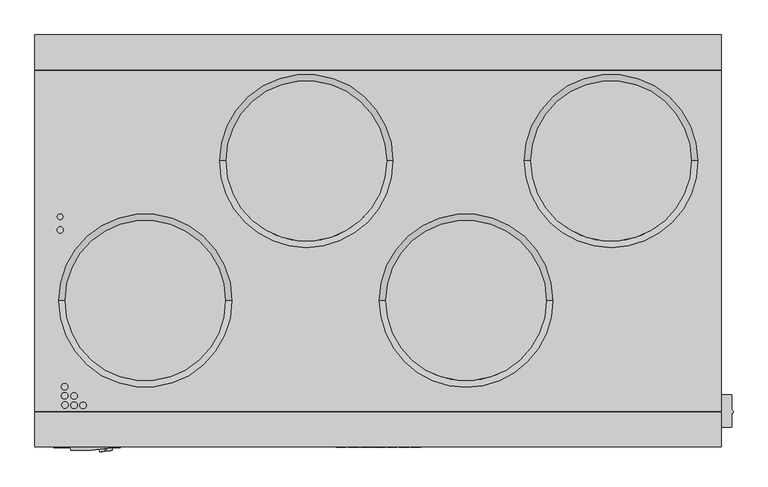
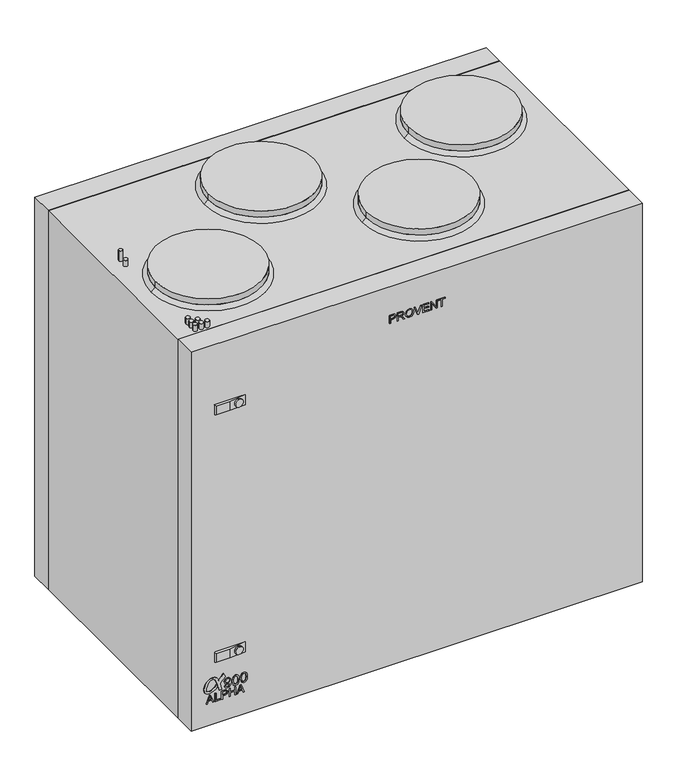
"""IFC4 building model written with IfcOpenShell, lengths in millimetres: proxy geometry, PROVENT_Вертикальная приточно-вытяжная установка_ALPHA 900 V_L : Provent ALPHA 900 V (L)."""

from ifc_helpers import new_model, si_unit, point, frame, frame_2d, origin, origin_with_axes, place, context, project, spatial, polyline, circle_curve, trimmed, segment, composite_curve, outline, extrude, faceted_brep, source, transform, mapped, element, save
from ifc_brep_helpers import plane_surface, revolved_surface, advanced_brep


def mechanical_equipment_39a2e7f8(model_context):
    return source(origin(), model_context, "Body", "SolidModel", [
        extrude(outline(composite_curve([segment(trimmed(circle_curve(frame_2d((105.733129, -470.1237592)), 0.5380284), [point((105.5307619, -469.6252393))], [point((105.5307619, -470.6222792))], True, "CARTESIAN"), True, "CONTINUOUS"), segment(polyline([(105.5307619, -470.6222792), (108.4438718, -471.7405173), (110.8786758, -472.9811119), (111.8121807, -473.634759)]), True, "CONTINUOUS"), segment(trimmed(circle_curve(frame_2d((104.0893382, -483.605165)), 12.6115539), [point((111.8121807, -473.634759))], [point((116.6261852, -484.975843))], False, "CARTESIAN"), True, "CONTINUOUS"), segment(trimmed(circle_curve(frame_2d((94.7661112, -482.5858384)), 21.9903379), [point((116.6261852, -484.975843))], [point((104.4885666, -502.3101589))], False, "CARTESIAN"), True, "CONTINUOUS"), segment(trimmed(circle_curve(frame_2d((93.5739124, -483.7782792)), 21.5072137), [point((104.4885666, -502.3101589))], [point((86.750764, -504.1744771))], False, "CARTESIAN"), True, "CONTINUOUS"), segment(trimmed(circle_curve(frame_2d((92.3890877, -493.0509518)), 12.4709065), [point((86.750764, -504.1744771))], [point((79.9366704, -492.3721207))], False, "CARTESIAN"), True, "CONTINUOUS"), segment(trimmed(circle_curve(frame_2d((110.0461474, -496.0763753)), 30.3364814), [point((79.9366704, -492.3721207))], [point((90.1381753, -473.1858805))], False, "CARTESIAN"), True, "CONTINUOUS"), segment(polyline([(90.1381753, -473.1858805), (97.4533974, -475.5627403)]), True, "CONTINUOUS"), segment(trimmed(circle_curve(frame_2d((112.8376087, -501.0248829)), 29.7488598), [point((97.4533974, -475.5627403))], [point((85.9068624, -488.3864665))], True, "CARTESIAN"), True, "CONTINUOUS"), segment(trimmed(circle_curve(frame_2d((94.2043298, -492.2804117)), 9.1657392), [point((85.9068624, -488.3864665))], [point((86.5295452, -497.2912455))], True, "CARTESIAN"), True, "CONTINUOUS"), segment(trimmed(circle_curve(frame_2d((91.0798658, -494.3203608)), 5.4342961), [point((86.5295452, -497.2912455))], [point((91.5402338, -499.7351216))], True, "CARTESIAN"), True, "CONTINUOUS"), segment(trimmed(circle_curve(frame_2d((91.5850962, -480.9838739)), 18.7513014), [point((91.5402338, -499.7351216))], [point((99.8454243, -497.8177173))], True, "CARTESIAN"), True, "CONTINUOUS"), segment(trimmed(circle_curve(frame_2d((91.1893595, -472.7550938)), 26.5153267), [point((99.8454243, -497.8177173))], [point((111.1844004, -490.1694813))], True, "CARTESIAN"), True, "CONTINUOUS"), segment(trimmed(circle_curve(frame_2d((105.8571487, -485.5297895)), 7.0644427), [point((111.1844004, -490.1694813))], [point((110.4868357, -480.1938408))], True, "CARTESIAN"), True, "CONTINUOUS"), segment(trimmed(circle_curve(frame_2d((74.7273898, -542.8145505)), 72.1116583), [point((110.4868357, -480.1938408))], [point((96.0155477, -473.9167596))], True, "CARTESIAN"), True, "CONTINUOUS"), segment(polyline([(96.0155477, -473.9167596), (80.1999436, -468.7779583), (80.1999436, -462.7436648), (94.9084674, -466.5447623)]), True, "CONTINUOUS"), segment(trimmed(circle_curve(frame_2d((95.7729921, -463.1994436)), 3.4552222), [point((94.9084674, -466.5447623))], [point((98.5138308, -465.3033362))], True, "CARTESIAN"), True, "CONTINUOUS"), segment(polyline([(98.5138308, -465.3033362), (109.4841363, -455.0733608)]), True, "CONTINUOUS"), segment(trimmed(circle_curve(frame_2d((110.1625275, -455.8008462)), 0.9947108), [point((109.4841363, -455.0733608))], [point((110.8409186, -455.0733608))], False, "CARTESIAN"), True, "CONTINUOUS"), segment(polyline([(110.8409186, -455.0733608), (118.9566741, -459.0316792)]), True, "CONTINUOUS"), segment(trimmed(circle_curve(frame_2d((118.472789, -459.3752736)), 0.593466), [point((118.9566741, -459.0316792))], [point((118.8242858, -459.8534492))], False, "CARTESIAN"), True, "CONTINUOUS"), segment(polyline([(118.8242858, -459.8534492), (105.5307619, -469.6252393)]), True, "CONTINUOUS")], self_intersect=False)), frame((0.0, -322.0, 0.0), z_axis=(0.0, 1.0, 0.0), x_axis=(0.0, 0.0, 1.0)), (0.0, 0.0, 1.0), 1.0),
        extrude(outline(polyline([(55.4809879, -499.9227218), (55.4809879, -497.2690664), (61.7595073, -494.9734827), (61.7595073, -486.6985904), (55.4809879, -484.3981016), (55.4809879, -481.7444462), (75.57225, -489.7642737), (75.57225, -491.9028943), (55.4809879, -499.9227218)]), holes=[polyline([(64.2709151, -494.0513252), (69.6419922, -492.0843828), (73.0608422, -490.833584), (69.210344, -489.4258222), (64.2709151, -487.6158428), (64.2709151, -494.0513252)])]), frame((0.0, -322.0, 0.0), z_axis=(0.0, 1.0, 0.0), x_axis=(0.0, 0.0, 1.0)), (0.0, 0.0, 1.0), 5.0),
        extrude(outline(polyline([(55.4809879, -479.0613601), (55.4809879, -466.5043214), (57.9923957, -466.5043214), (57.9923957, -476.5499524), (75.57225, -476.5499524), (75.57225, -479.0613601), (55.4809879, -479.0613601)])), frame((0.0, -322.0, 0.0), z_axis=(0.0, 1.0, 0.0), x_axis=(0.0, 0.0, 1.0)), (0.0, 0.0, 1.0), 5.0),
        extrude(outline(polyline([(55.4809879, -463.6789876), (55.4809879, -461.1675799), (63.6430631, -461.1675799), (63.6430631, -456.0613778), (65.4187069, -450.2267694), (69.7597144, -448.6105411), (72.499209, -449.2089625), (74.441626, -450.7908551), (75.3809513, -453.231139), (75.57225, -456.2330561), (75.57225, -463.6789876), (55.4809879, -463.6789876)]), holes=[polyline([(66.1544709, -461.1675799), (73.0608422, -461.1675799), (73.0608422, -455.9730861), (72.8891639, -453.4616784), (71.7511823, -451.7669686), (69.6714228, -451.1219489), (67.0766284, -452.2157847), (66.1544709, -455.914225), (66.1544709, -461.1675799)])]), frame((0.0, -322.0, 0.0), z_axis=(0.0, 1.0, 0.0), x_axis=(0.0, 0.0, 1.0)), (0.0, 0.0, 1.0), 5.0),
        extrude(outline(polyline([(55.4809879, -445.1573555), (55.4809879, -442.6459477), (64.898767, -442.6459477), (64.898767, -431.9724648), (55.4809879, -431.9724648), (55.4809879, -429.461057), (75.57225, -429.461057), (75.57225, -431.9724648), (67.4101748, -431.9724648), (67.4101748, -442.6459477), (75.57225, -442.6459477), (75.57225, -445.1573555), (55.4809879, -445.1573555)])), frame((0.0, -322.0, 0.0), z_axis=(0.0, 1.0, 0.0), x_axis=(0.0, 0.0, 1.0)), (0.0, 0.0, 1.0), 5.0),
        extrude(outline(polyline([(55.4809879, -427.4058229), (55.4809879, -424.7521675), (61.7595073, -422.4565838), (61.7595073, -414.1816915), (55.4809879, -411.8812027), (55.4809879, -409.2275473), (75.57225, -417.2473748), (75.57225, -419.3859954), (55.4809879, -427.4058229)]), holes=[polyline([(64.2709151, -421.5344263), (69.6419922, -419.5674839), (73.0608422, -418.3166851), (69.210344, -416.9089233), (64.2709151, -415.0989439), (64.2709151, -421.5344263)])]), frame((0.0, -322.0, 0.0), z_axis=(0.0, 1.0, 0.0), x_axis=(0.0, 0.0, 1.0)), (0.0, 0.0, 1.0), 5.0),
        extrude(outline(polyline([(85.8888798, -456.667671), (80.9684581, -454.4174595), (79.2179529, -449.592074), (80.7017436, -444.7452287), (85.0212914, -441.6274288), (92.6456458, -440.5789651), (99.6721919, -441.6304945), (103.4123255, -444.7084405), (104.7244379, -449.1812724), (102.4251755, -454.8129326), (96.3551225, -457.0600785), (90.475142, -454.9171658), (88.2433245, -449.6717817), (89.1568982, -446.2290194), (90.9227317, -443.6998307), (87.2807, -444.1535518), (84.5522419, -445.1805557), (82.9550209, -446.9034697), (82.3572126, -449.4449212), (83.2861147, -452.118197), (86.2812872, -453.5284113), (85.8888798, -456.667671)]), holes=[polyline([(96.4286989, -443.7182248), (92.7222878, -445.1376361), (91.3825842, -448.7582081), (92.7222878, -452.5289986), (96.2018384, -453.9208188), (100.0860591, -452.4492908), (101.5851782, -448.672369), (100.193358, -445.0732568), (96.4286989, -443.7182248)])]), frame((0.0, -322.0, 0.0), z_axis=(0.0, 1.0, 0.0), x_axis=(0.0, 0.0, 1.0)), (0.0, 0.0, 1.0), 5.0),
        extrude(outline(polyline([(91.9650641, -437.8321129), (81.6091859, -435.3305153), (79.2179529, -429.5915562), (80.5944447, -424.9960969), (84.7699054, -422.2645731), (91.9650641, -421.3509995), (97.8665044, -421.9212166), (101.5821126, -423.3927445), (103.9150975, -425.9249989), (104.7244379, -429.5915562), (103.3571432, -434.1686213), (99.1908796, -436.9093422), (91.9650641, -437.8321129)]), holes=[polyline([(91.9711954, -434.6928532), (99.9051838, -433.1722742), (101.5851782, -429.6283444), (99.6783232, -425.9127362), (91.9711954, -424.4902592), (84.1812942, -425.9617871), (82.3572126, -429.5915562), (84.1751628, -433.2213252), (91.9711954, -434.6928532)])]), frame((0.0, -322.0, 0.0), z_axis=(0.0, 1.0, 0.0), x_axis=(0.0, 0.0, 1.0)), (0.0, 0.0, 1.0), 5.0),
        extrude(outline(polyline([(91.9650641, -418.6041472), (81.6091859, -416.1025497), (79.2179529, -410.3635905), (80.5944447, -405.7681313), (84.7699054, -403.0366075), (91.9650641, -402.1230339), (97.8665044, -402.6932509), (101.5821126, -404.1647789), (103.9150975, -406.6970333), (104.7244379, -410.3635905), (103.3571432, -414.9406557), (99.1908796, -417.6813766), (91.9650641, -418.6041472)]), holes=[polyline([(91.9711954, -415.4648875), (99.9051838, -413.9443086), (101.5851782, -410.4003787), (99.6783232, -406.6847706), (91.9711954, -405.2622935), (84.1812942, -406.7338215), (82.3572126, -410.3635905), (84.1751628, -413.9933596), (91.9711954, -415.4648875)])]), frame((0.0, -322.0, 0.0), z_axis=(0.0, 1.0, 0.0), x_axis=(0.0, 0.0, 1.0)), (0.0, 0.0, 1.0), 5.0),
        extrude(outline(polyline([(858.040157, -64.9826756), (858.040157, -62.4712679), (866.2022322, -62.4712679), (866.2022322, -57.3650658), (867.977876, -51.5304573), (872.3188835, -49.9142291), (875.0583781, -50.5126505), (877.0007951, -52.0945431), (877.9401204, -54.534827), (878.1314191, -57.536744), (878.1314191, -64.9826756), (858.040157, -64.9826756)]), holes=[polyline([(868.71364, -62.4712679), (875.6200113, -62.4712679), (875.6200113, -57.2767741), (875.448333, -54.7653663), (874.3103514, -53.0706566), (872.2305919, -52.4256369), (869.6357975, -53.5194727), (868.71364, -57.217913), (868.71364, -62.4712679)])]), frame((0.0, -322.0, 0.0), z_axis=(0.0, 1.0, 0.0), x_axis=(0.0, 0.0, 1.0)), (0.0, 0.0, 1.0), 5.0),
        extrude(outline(polyline([(858.040157, -46.4610434), (858.040157, -43.9496357), (866.8300842, -43.9496357), (866.2635459, -38.2670851), (864.9612436, -36.9402574), (862.2045812, -35.0517965), (858.040157, -32.4373818), (858.040157, -29.5188513), (863.4848106, -32.86903), (866.0697947, -34.9046437), (867.1440101, -36.3320258), (869.0128507, -32.1259084), (872.6328095, -30.764745), (875.6715148, -31.5863481), (877.5894063, -33.7838299), (878.1314191, -37.8035538), (878.1314191, -46.4610434), (858.040157, -46.4610434)]), holes=[polyline([(869.3414919, -43.9496357), (875.6200113, -43.9496357), (875.6200113, -37.6956418), (874.7518098, -34.3381054), (872.5396127, -33.2761527), (870.8350928, -33.8328808), (869.6971112, -35.4613718), (869.3414919, -38.3283988), (869.3414919, -43.9496357)])]), frame((0.0, -322.0, 0.0), z_axis=(0.0, 1.0, 0.0), x_axis=(0.0, 0.0, 1.0)), (0.0, 0.0, 1.0), 5.0),
        extrude(outline(polyline([(867.820913, -27.3115593), (862.8201704, -26.1637675), (859.0922995, -22.7890633), (857.7262311, -17.7368173), (858.9623146, -12.8734173), (862.6018938, -9.3908011), (868.0514524, -8.1620752), (873.4274346, -9.3294874), (877.1209698, -12.7238119), (878.445345, -17.722102), (875.6249164, -24.6333784), (867.820913, -27.3115593)]), holes=[polyline([(867.7963875, -24.8001516), (874.0577391, -22.7056767), (875.9339373, -17.7073867), (874.9602763, -14.0212091), (872.2158766, -11.5269692), (868.0710728, -10.673483), (862.2781576, -12.6674034), (860.2376388, -17.7515325), (862.2585372, -22.7915159), (867.7963875, -24.8001516)])]), frame((0.0, -322.0, 0.0), z_axis=(0.0, 1.0, 0.0), x_axis=(0.0, 0.0, 1.0)), (0.0, 0.0, 1.0), 5.0),
        extrude(outline(polyline([(858.040157, 1.2262733), (858.040157, 3.8210677), (878.1314191, 11.4779182), (878.1314191, 8.7899271), (863.6564888, 3.4237551), (860.3946018, 2.3544448), (863.6564888, 1.2704192), (878.1314191, -4.0810376), (878.1314191, -6.7690287), (858.040157, 1.2262733)])), frame((0.0, -322.0, 0.0), z_axis=(0.0, 1.0, 0.0), x_axis=(0.0, 0.0, 1.0)), (0.0, 0.0, 1.0), 5.0),
        extrude(outline(polyline([(858.040157, 13.8127426), (858.040157, 28.5672632), (860.5515648, 28.5672632), (860.5515648, 16.3241504), (867.1440101, 16.3241504), (867.1440101, 27.6254853), (869.6554179, 27.6254853), (869.6554179, 16.3241504), (875.6200113, 16.3241504), (875.6200113, 28.2533372), (878.1314191, 28.2533372), (878.1314191, 13.8127426), (858.040157, 13.8127426)])), frame((0.0, -322.0, 0.0), z_axis=(0.0, 1.0, 0.0), x_axis=(0.0, 0.0, 1.0)), (0.0, 0.0, 1.0), 5.0),
        extrude(outline(polyline([(858.040157, 32.3343748), (858.040157, 34.8457826), (873.9620898, 34.8457826), (858.040157, 45.3426822), (858.040157, 48.0306733), (878.1314191, 48.0306733), (878.1314191, 45.5192655), (862.2143914, 45.5192655), (878.1314191, 35.0223659), (878.1314191, 32.3343748), (858.040157, 32.3343748)])), frame((0.0, -322.0, 0.0), z_axis=(0.0, 1.0, 0.0), x_axis=(0.0, 0.0, 1.0)), (0.0, 0.0, 1.0), 5.0),
        extrude(outline(polyline([(858.040157, 57.4484524), (858.040157, 59.9598601), (875.6200113, 59.9598601), (875.6200113, 66.5523055), (878.1314191, 66.5523055), (878.1314191, 50.856007), (875.6200113, 50.856007), (875.6200113, 57.4484524), (858.040157, 57.4484524)])), frame((0.0, -322.0, 0.0), z_axis=(0.0, 1.0, 0.0), x_axis=(0.0, 0.0, 1.0)), (0.0, 0.0, 1.0), 5.0),
        extrude(outline(composite_curve([segment(trimmed(circle_curve(frame_2d((137.0, -93.0)), 125.0), [point((12.0, -93.0))], [point((262.0, -93.0))], False, "CARTESIAN"), True, "CONTINUOUS"), segment(trimmed(circle_curve(frame_2d((137.0, -93.0)), 125.0), [point((262.0, -93.0))], [point((12.0, -93.0))], False, "CARTESIAN"), True, "CONTINUOUS")], self_intersect=False)), frame((0.0, 0.0, 958.5199387), z_axis=(0.0, 0.0, 1.0), x_axis=(1.0, 0.0, 0.0)), (0.0, 0.0, 1.0), 15.0),
        advanced_brep(
        [(12.0, -93.0, 958.5199387), (262.0, -93.0, 958.5199387), (2.0, -93.0, 950.0), (272.0, -93.0, 950.0)],
        [
            (0, 1, circle_curve(frame((137.0, -93.0, 958.5199387), z_axis=(0.0, 0.0, 1.0), x_axis=(-1.0, 0.0, 0.0)), 125.0)),
            (1, 0, circle_curve(frame((137.0, -93.0, 958.5199387), z_axis=(0.0, 0.0, 1.0), x_axis=(1.0, 0.0, 0.0)), 125.0)),
            (2, 3, circle_curve(frame((137.0, -93.0, 950.0), z_axis=(0.0, 0.0, -1.0), x_axis=(1.0, 0.0, 0.0)), 135.0)),
            (3, 2, circle_curve(frame((137.0, -93.0, 950.0), z_axis=(0.0, 0.0, -1.0), x_axis=(-1.0, 0.0, 0.0)), 135.0)),
            (3, 1),
            (0, 2),
        ],
        [
            plane_surface(frame((137.0, -93.0, 958.5199387), z_axis=(0.0, 0.0, 1.0), x_axis=(0.0, -1.0, 0.0))),
            plane_surface(frame((137.0, -93.0, 950.0), z_axis=(0.0, 0.0, -1.0), x_axis=(0.0, -1.0, 0.0))),
            revolved_surface(polyline([(12.000000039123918, -93.0, 958.5199387), (2.0, -93.0, 950.0)]), (137.0, -93.0, 1065.019172), (0.0, 0.0, -1.0)),
            revolved_surface(polyline([(261.9999999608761, -93.0, 958.5199387), (272.0, -93.0, 950.0)]), (137.0, -93.0, 1065.019172), (0.0, 0.0, -1.0)),
        ],
        [
            (0, [[1, 2]]),
            (1, [[3, 4]]),
            (2, [[-4, 5, -1, 6]]),
            (3, [[-3, -6, -2, -5]]),
        ],
    ),
        extrude(outline(composite_curve([segment(trimmed(circle_curve(frame_2d((-363.0, -93.0)), 125.0), [point((-488.0, -93.0))], [point((-238.0, -93.0))], False, "CARTESIAN"), True, "CONTINUOUS"), segment(trimmed(circle_curve(frame_2d((-363.0, -93.0)), 125.0), [point((-238.0, -93.0))], [point((-488.0, -93.0))], False, "CARTESIAN"), True, "CONTINUOUS")], self_intersect=False)), frame((0.0, 0.0, 958.5199387), z_axis=(0.0, 0.0, 1.0), x_axis=(1.0, 0.0, 0.0)), (0.0, 0.0, 1.0), 15.0),
        advanced_brep(
        [(-488.0, -93.0, 958.5199387), (-238.0, -93.0, 958.5199387), (-498.0, -93.0, 950.0), (-228.0, -93.0, 950.0)],
        [
            (0, 1, circle_curve(frame((-363.0, -93.0, 958.5199387), z_axis=(0.0, 0.0, 1.0), x_axis=(-1.0, 0.0, 0.0)), 125.0)),
            (1, 0, circle_curve(frame((-363.0, -93.0, 958.5199387), z_axis=(0.0, 0.0, 1.0), x_axis=(1.0, 0.0, 0.0)), 125.0)),
            (2, 3, circle_curve(frame((-363.0, -93.0, 950.0), z_axis=(0.0, 0.0, -1.0), x_axis=(1.0, 0.0, 0.0)), 135.0)),
            (3, 2, circle_curve(frame((-363.0, -93.0, 950.0), z_axis=(0.0, 0.0, -1.0), x_axis=(-1.0, 0.0, 0.0)), 135.0)),
            (3, 1),
            (0, 2),
        ],
        [
            plane_surface(frame((-363.0, -93.0, 958.5199387), z_axis=(0.0, 0.0, 1.0), x_axis=(0.0, -1.0, 0.0))),
            plane_surface(frame((-363.0, -93.0, 950.0), z_axis=(0.0, 0.0, -1.0), x_axis=(0.0, -1.0, 0.0))),
            revolved_surface(polyline([(-487.9999999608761, -93.0, 958.5199387), (-498.0, -93.0, 950.0)]), (-363.0, -93.0, 1065.019172), (0.0, 0.0, -1.0)),
            revolved_surface(polyline([(-238.0000000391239, -93.0, 958.5199387), (-228.0, -93.0, 950.0)]), (-363.0, -93.0, 1065.019172), (0.0, 0.0, -1.0)),
        ],
        [
            (0, [[1, 2]]),
            (1, [[3, 4]]),
            (2, [[-4, 5, -1, 6]]),
            (3, [[-3, -6, -2, -5]]),
        ],
    ),
        extrude(outline(composite_curve([segment(trimmed(circle_curve(frame_2d((-112.0, 124.5881439)), 125.0), [point((-237.0, 124.5881439))], [point((13.0, 124.5881439))], False, "CARTESIAN"), True, "CONTINUOUS"), segment(trimmed(circle_curve(frame_2d((-112.0, 124.5881439)), 125.0), [point((13.0, 124.5881439))], [point((-237.0, 124.5881439))], False, "CARTESIAN"), True, "CONTINUOUS")], self_intersect=False)), frame((0.0, 0.0, 958.5199387), z_axis=(0.0, 0.0, 1.0), x_axis=(1.0, 0.0, 0.0)), (0.0, 0.0, 1.0), 15.0),
        advanced_brep(
        [(-237.0, 124.5881439, 958.5199387), (13.0, 124.5881439, 958.5199387), (-247.0, 124.5881439, 950.0), (23.0, 124.5881439, 950.0)],
        [
            (0, 1, circle_curve(frame((-112.0, 124.5881439, 958.5199387), z_axis=(0.0, 0.0, 1.0), x_axis=(-1.0, 0.0, 0.0)), 125.0)),
            (1, 0, circle_curve(frame((-112.0, 124.5881439, 958.5199387), z_axis=(0.0, 0.0, 1.0), x_axis=(1.0, 0.0, 0.0)), 125.0)),
            (2, 3, circle_curve(frame((-112.0, 124.5881439, 950.0), z_axis=(0.0, 0.0, -1.0), x_axis=(1.0, 0.0, 0.0)), 135.0)),
            (3, 2, circle_curve(frame((-112.0, 124.5881439, 950.0), z_axis=(0.0, 0.0, -1.0), x_axis=(-1.0, 0.0, 0.0)), 135.0)),
            (3, 1),
            (0, 2),
        ],
        [
            plane_surface(frame((-112.0, 124.5881439, 958.5199387), z_axis=(0.0, 0.0, 1.0), x_axis=(0.0, -1.0, 0.0))),
            plane_surface(frame((-112.0, 124.5881439, 950.0), z_axis=(0.0, 0.0, -1.0), x_axis=(0.0, -1.0, 0.0))),
            revolved_surface(polyline([(-236.9999999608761, 124.5881439, 958.5199387), (-247.0, 124.5881439, 950.0)]), (-112.0, 124.5881439, 1065.019172), (0.0, 0.0, -1.0)),
            revolved_surface(polyline([(12.999999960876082, 124.5881439, 958.5199387), (23.0, 124.5881439, 950.0)]), (-112.0, 124.5881439, 1065.019172), (0.0, 0.0, -1.0)),
        ],
        [
            (0, [[1, 2]]),
            (1, [[3, 4]]),
            (2, [[-4, 5, -1, 6]]),
            (3, [[-3, -6, -2, -5]]),
        ],
    ),
        extrude(outline(composite_curve([segment(trimmed(circle_curve(frame_2d((363.0, 124.5881439)), 125.0), [point((238.0, 124.5881439))], [point((488.0, 124.5881439))], False, "CARTESIAN"), True, "CONTINUOUS"), segment(trimmed(circle_curve(frame_2d((363.0, 124.5881439)), 125.0), [point((488.0, 124.5881439))], [point((238.0, 124.5881439))], False, "CARTESIAN"), True, "CONTINUOUS")], self_intersect=False)), frame((0.0, 0.0, 958.5199387), z_axis=(0.0, 0.0, 1.0), x_axis=(1.0, 0.0, 0.0)), (0.0, 0.0, 1.0), 15.0),
        extrude(outline(composite_curve([segment(trimmed(circle_curve(frame_2d((-495.5549535, 37.5161614)), 4.363615), [point((-491.1913384, 37.5161614))], [point((-499.9185685, 37.5161614))], False, "CARTESIAN"), True, "CONTINUOUS"), segment(trimmed(circle_curve(frame_2d((-495.5549535, 37.5161614)), 4.363615), [point((-499.9185685, 37.5161614))], [point((-491.1913384, 37.5161614))], False, "CARTESIAN"), True, "CONTINUOUS")], self_intersect=False)), frame((0.0, 0.0, 950.0), z_axis=(0.0, 0.0, 1.0), x_axis=(1.0, 0.0, 0.0)), (0.0, 0.0, 1.0), 26.0),
        extrude(outline(composite_curve([segment(trimmed(circle_curve(frame_2d((-495.5549535, 17.0594523)), 5.0), [point((-490.5549535, 17.0594523))], [point((-500.5549535, 17.0594523))], False, "CARTESIAN"), True, "CONTINUOUS"), segment(trimmed(circle_curve(frame_2d((-495.5549535, 17.0594523)), 5.0), [point((-500.5549535, 17.0594523))], [point((-490.5549535, 17.0594523))], False, "CARTESIAN"), True, "CONTINUOUS")], self_intersect=False)), frame((0.0, 0.0, 950.0), z_axis=(0.0, 0.0, 1.0), x_axis=(1.0, 0.0, 0.0)), (0.0, 0.0, 1.0), 15.0),
        extrude(outline(composite_curve([segment(trimmed(circle_curve(frame_2d((-488.6799535, -241.3585618)), 5.0), [point((-483.6799535, -241.3585618))], [point((-493.6799535, -241.3585618))], False, "CARTESIAN"), True, "CONTINUOUS"), segment(trimmed(circle_curve(frame_2d((-488.6799535, -241.3585618)), 5.0), [point((-493.6799535, -241.3585618))], [point((-483.6799535, -241.3585618))], False, "CARTESIAN"), True, "CONTINUOUS")], self_intersect=False)), frame((0.0, 0.0, 950.0), z_axis=(0.0, 0.0, 1.0), x_axis=(1.0, 0.0, 0.0)), (0.0, 0.0, 1.0), 15.0),
        extrude(outline(composite_curve([segment(trimmed(circle_curve(frame_2d((-473.9405338, -256.2023118)), 5.0), [point((-468.9405338, -256.2023118))], [point((-478.9405338, -256.2023118))], False, "CARTESIAN"), True, "CONTINUOUS"), segment(trimmed(circle_curve(frame_2d((-473.9405338, -256.2023118)), 5.0), [point((-478.9405338, -256.2023118))], [point((-468.9405338, -256.2023118))], False, "CARTESIAN"), True, "CONTINUOUS")], self_intersect=False)), frame((0.0, 0.0, 950.0), z_axis=(0.0, 0.0, 1.0), x_axis=(1.0, 0.0, 0.0)), (0.0, 0.0, 1.0), 15.0),
        extrude(outline(composite_curve([segment(trimmed(circle_curve(frame_2d((-459.9299535, -256.3585618)), 5.0), [point((-454.9299535, -256.3585618))], [point((-464.9299535, -256.3585618))], False, "CARTESIAN"), True, "CONTINUOUS"), segment(trimmed(circle_curve(frame_2d((-459.9299535, -256.3585618)), 5.0), [point((-464.9299535, -256.3585618))], [point((-454.9299535, -256.3585618))], False, "CARTESIAN"), True, "CONTINUOUS")], self_intersect=False)), frame((0.0, 0.0, 950.0), z_axis=(0.0, 0.0, 1.0), x_axis=(1.0, 0.0, 0.0)), (0.0, 0.0, 1.0), 15.0),
        extrude(outline(composite_curve([segment(trimmed(circle_curve(frame_2d((-488.6799535, -227.2960618)), 5.0), [point((-483.6799535, -227.2960618))], [point((-493.6799535, -227.2960618))], False, "CARTESIAN"), True, "CONTINUOUS"), segment(trimmed(circle_curve(frame_2d((-488.6799535, -227.2960618)), 5.0), [point((-493.6799535, -227.2960618))], [point((-483.6799535, -227.2960618))], False, "CARTESIAN"), True, "CONTINUOUS")], self_intersect=False)), frame((0.0, 0.0, 950.0), z_axis=(0.0, 0.0, 1.0), x_axis=(1.0, 0.0, 0.0)), (0.0, 0.0, 1.0), 15.0),
        extrude(outline(composite_curve([segment(trimmed(circle_curve(frame_2d((-488.120726, -255.7335618)), 5.0), [point((-483.120726, -255.7335618))], [point((-493.120726, -255.7335618))], False, "CARTESIAN"), True, "CONTINUOUS"), segment(trimmed(circle_curve(frame_2d((-488.120726, -255.7335618)), 5.0), [point((-493.120726, -255.7335618))], [point((-483.120726, -255.7335618))], False, "CARTESIAN"), True, "CONTINUOUS")], self_intersect=False)), frame((0.0, 0.0, 950.0), z_axis=(0.0, 0.0, 1.0), x_axis=(1.0, 0.0, 0.0)), (0.0, 0.0, 1.0), 15.0),
        extrude(outline(composite_curve([segment(trimmed(circle_curve(frame_2d((-473.9405338, -241.5938936)), 5.0), [point((-468.9405338, -241.5938936))], [point((-478.9405338, -241.5938936))], False, "CARTESIAN"), True, "CONTINUOUS"), segment(trimmed(circle_curve(frame_2d((-473.9405338, -241.5938936)), 5.0), [point((-478.9405338, -241.5938936))], [point((-468.9405338, -241.5938936))], False, "CARTESIAN"), True, "CONTINUOUS")], self_intersect=False)), frame((0.0, 0.0, 950.0), z_axis=(0.0, 0.0, 1.0), x_axis=(1.0, 0.0, 0.0)), (0.0, 0.0, 1.0), 15.0),
        advanced_brep(
        [(238.0, 124.5881439, 958.5199387), (488.0, 124.5881439, 958.5199387), (228.0, 124.5881439, 950.0), (498.0, 124.5881439, 950.0)],
        [
            (0, 1, circle_curve(frame((363.0, 124.5881439, 958.5199387), z_axis=(0.0, 0.0, 1.0), x_axis=(-1.0, 0.0, 0.0)), 125.0)),
            (1, 0, circle_curve(frame((363.0, 124.5881439, 958.5199387), z_axis=(0.0, 0.0, 1.0), x_axis=(1.0, 0.0, 0.0)), 125.0)),
            (2, 3, circle_curve(frame((363.0, 124.5881439, 950.0), z_axis=(0.0, 0.0, -1.0), x_axis=(1.0, 0.0, 0.0)), 135.0)),
            (3, 2, circle_curve(frame((363.0, 124.5881439, 950.0), z_axis=(0.0, 0.0, -1.0), x_axis=(-1.0, 0.0, 0.0)), 135.0)),
            (3, 1),
            (0, 2),
        ],
        [
            plane_surface(frame((363.0, 124.5881439, 958.5199387), z_axis=(0.0, 0.0, 1.0), x_axis=(0.0, -1.0, 0.0))),
            plane_surface(frame((363.0, 124.5881439, 950.0), z_axis=(0.0, 0.0, -1.0), x_axis=(0.0, -1.0, 0.0))),
            revolved_surface(polyline([(238.0000000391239, 124.5881439, 958.5199387), (228.0, 124.5881439, 950.0)]), (363.0, 124.5881439, 1065.019172), (0.0, 0.0, -1.0)),
            revolved_surface(polyline([(487.9999999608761, 124.5881439, 958.5199387), (498.0, 124.5881439, 950.0)]), (363.0, 124.5881439, 1065.019172), (0.0, 0.0, -1.0)),
        ],
        [
            (0, [[1, 2]]),
            (1, [[3, 4]]),
            (2, [[-4, 5, -1, 6]]),
            (3, [[-3, -6, -2, -5]]),
        ],
    ),
        extrude(outline(polyline([(-535.0, 264.818014), (535.0, 264.818014), (535.0, -265.61), (-535.0, -265.61), (-535.0, 264.818014)])), origin_with_axes(), (0.0, 0.0, 1.0), 950.0),
        extrude(outline(polyline([(-535.0, -267.418014), (535.0, -267.418014), (535.0, -321.0), (-535.0, -321.0), (-535.0, -267.418014)])), origin_with_axes(), (0.0, 0.0, 1.0), 950.0),
        extrude(outline(polyline([(-535.0, 321.0), (535.0, 321.0), (535.0, 266.818014), (-535.0, 266.818014), (-535.0, 321.0)])), origin_with_axes(), (0.0, 0.0, 1.0), 950.0),
        extrude(outline(composite_curve([segment(polyline([(550.9953883, -290.0717835), (534.9953883, -290.0717835), (534.9953883, -240.0717835), (551.1921273, -240.0717835), (551.1921273, -264.0292535)]), True, "CONTINUOUS"), segment(trimmed(circle_curve(frame_2d((550.5520018, -266.514007)), 2.565884), [point((551.1921273, -264.0292535))], [point((550.9953883, -269.041292))], False, "CARTESIAN"), True, "CONTINUOUS"), segment(polyline([(550.9953883, -269.041292), (550.9953883, -290.0717835)]), True, "CONTINUOUS")], self_intersect=False)), frame((0.0, 0.0, 440.9885126), z_axis=(0.0, 0.0, 1.0), x_axis=(1.0, 0.0, 0.0)), (0.0, 0.0, 1.0), 50.0),
        extrude(outline(composite_curve([segment(polyline([(550.9953883, -290.0717835), (534.9953883, -290.0717835), (534.9953883, -240.0717835), (551.1921273, -240.0717835), (551.1921273, -264.0292535)]), True, "CONTINUOUS"), segment(trimmed(circle_curve(frame_2d((550.5520018, -266.514007)), 2.565884), [point((551.1921273, -264.0292535))], [point((550.9953883, -269.041292))], False, "CARTESIAN"), True, "CONTINUOUS"), segment(polyline([(550.9953883, -269.041292), (550.9953883, -290.0717835)]), True, "CONTINUOUS")], self_intersect=False)), frame((0.0, 0.0, 750.9885126), z_axis=(0.0, 0.0, 1.0), x_axis=(1.0, 0.0, 0.0)), (0.0, 0.0, 1.0), 50.0),
        extrude(outline(composite_curve([segment(polyline([(550.9953883, -290.0717835), (534.9953883, -290.0717835), (534.9953883, -240.0717835), (551.1921273, -240.0717835), (551.1921273, -264.0292535)]), True, "CONTINUOUS"), segment(trimmed(circle_curve(frame_2d((550.5520018, -266.514007)), 2.565884), [point((551.1921273, -264.0292535))], [point((550.9953883, -269.041292))], False, "CARTESIAN"), True, "CONTINUOUS"), segment(polyline([(550.9953883, -269.041292), (550.9953883, -290.0717835)]), True, "CONTINUOUS")], self_intersect=False)), frame((0.0, 0.0, 135.9885126), z_axis=(0.0, 0.0, 1.0), x_axis=(1.0, 0.0, 0.0)), (0.0, 0.0, 1.0), 50.0),
        extrude(outline(composite_curve([segment(polyline([(-1.832016, 0.0), (0.0, 0.0)]), True, "CONTINUOUS"), segment(trimmed(circle_curve(frame_2d((0.0, -9.1119152)), 9.1119152), [point((0.0, 0.0))], [point((0.0, -18.2238303))], False, "CARTESIAN"), True, "CONTINUOUS"), segment(polyline([(0.0, -18.2238303), (-1.832016, -18.2238303)]), True, "CONTINUOUS"), segment(trimmed(circle_curve(frame_2d((-1.832016, -9.1119152)), 9.1119152), [point((-1.832016, -18.2238303))], [point((-1.832016, 0.0))], False, "CARTESIAN"), True, "CONTINUOUS")], self_intersect=False)), frame((-423.264872, -327.2971851, 778.4701356), z_axis=(-0.11489459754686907, 0.9933776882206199, 0.0), x_axis=(0.9933776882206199, 0.11489459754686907, 0.0)), (0.0, 0.0, 1.0), 3.9271589),
        faceted_brep([(-478.7639794, -326.0, 776.6246405), (-446.2299564, -326.0, 776.6246405), (-446.2299564, -326.0, 797.9370938), (-478.7639794, -326.0, 797.9370938), (-480.2469676, -321.0, 773.9074374), (-480.2469676, -321.0, 800.2463053), (-403.0, -321.0, 800.2463053), (-403.0, -321.0, 773.9074374)], [[[0, 1, 2, 3]], [[4, 5, 6, 7]], [[4, 7, 1, 0]], [[7, 6, 2, 1]], [[6, 5, 3, 2]], [[5, 4, 0, 3]]]),
        extrude(outline(composite_curve([segment(polyline([(-1.832016, 0.0), (0.0, 0.0)]), True, "CONTINUOUS"), segment(trimmed(circle_curve(frame_2d((0.0, -9.1119152)), 9.1119152), [point((0.0, 0.0))], [point((0.0, -18.2238303))], False, "CARTESIAN"), True, "CONTINUOUS"), segment(polyline([(0.0, -18.2238303), (-1.832016, -18.2238303)]), True, "CONTINUOUS"), segment(trimmed(circle_curve(frame_2d((-1.832016, -9.1119152)), 9.1119152), [point((-1.832016, -18.2238303))], [point((-1.832016, 0.0))], False, "CARTESIAN"), True, "CONTINUOUS")], self_intersect=False)), frame((-423.264872, -327.2971851, 158.4701356), z_axis=(-0.11489459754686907, 0.9933776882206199, 0.0), x_axis=(0.9933776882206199, 0.11489459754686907, 0.0)), (0.0, 0.0, 1.0), 3.9271589),
        faceted_brep([(-478.7639794, -326.0, 156.6246405), (-446.2299564, -326.0, 156.6246405), (-446.2299564, -326.0, 177.9370938), (-478.7639794, -326.0, 177.9370938), (-480.2469676, -321.0, 153.9074374), (-480.2469676, -321.0, 180.2463053), (-403.0, -321.0, 180.2463053), (-403.0, -321.0, 153.9074374)], [[[0, 1, 2, 3]], [[4, 5, 6, 7]], [[4, 7, 1, 0]], [[7, 6, 2, 1]], [[6, 5, 3, 2]], [[5, 4, 0, 3]]]),
    ])


if __name__ == "__main__":
    model = new_model("IFC4")
    model_context = context("Model", 3, world=origin())
    ifc_project = project(units=[si_unit("LENGTHUNIT", "METRE", prefix="MILLI")], contexts=[model_context])
    site = spatial("IfcSite", under=ifc_project)
    building = spatial("IfcBuilding", under=site)
    placement = place(None, origin())
    mechanical_equipment_shape = mechanical_equipment_39a2e7f8(model_context)
    element("IfcBuildingElementProxy", 1, Name="PROVENT_Вертикальная приточно-вытяжная установка_ALPHA 900 V_L : Provent ALPHA 900 V (L)", ObjectType="PROVENT_Вертикальная приточно-вытяжная установка_ALPHA 900 V_L : Provent ALPHA 900 V (L)", at=placement, inside=building, context=model_context, shape_type="MappedRepresentation", body=[
        mapped(mechanical_equipment_shape, transform((0.0, 0.0, 0.0), x_axis=(1.0, 0.0, 0.0), y_axis=(0.0, 1.0, 0.0), z_axis=(0.0, 0.0, 1.0))),
    ])
    save(model, "model.ifc")
